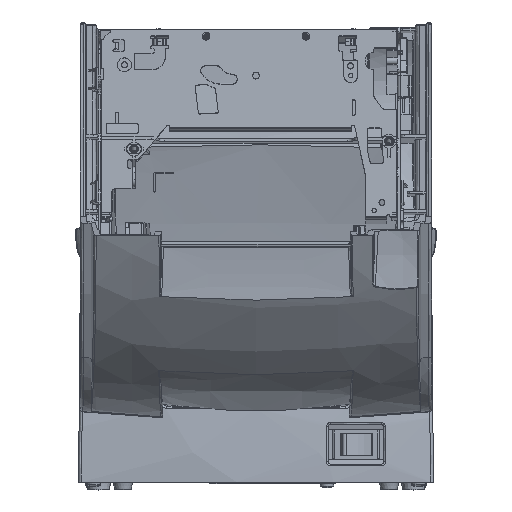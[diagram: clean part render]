
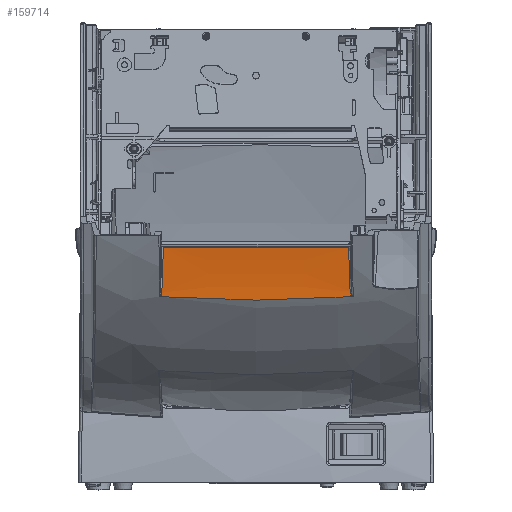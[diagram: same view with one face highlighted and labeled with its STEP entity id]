
A CAD part, top view. The second image highlights one B-rep face of the part: STEP entity #159714.
In plain terms, the highlighted face is a extrusion surface.
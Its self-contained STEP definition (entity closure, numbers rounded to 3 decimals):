
#141795=CARTESIAN_POINT('',(-42.446,-1.787,
180.438));
#141796=CARTESIAN_POINT('',(-42.419,-1.073,
180.469));
#141797=CARTESIAN_POINT('',(-42.36,0.452,
180.549));
#141798=CARTESIAN_POINT('',(-42.263,3.07,
180.735));
#141799=CARTESIAN_POINT('',(-42.161,5.88,
180.989));
#141800=CARTESIAN_POINT('',(-42.074,8.358,
181.251));
#141801=CARTESIAN_POINT('',(-41.999,10.574,
181.511));
#141802=CARTESIAN_POINT('',(-41.933,12.562,
181.764));
#141803=CARTESIAN_POINT('',(-41.875,14.358,
182.006));
#141804=CARTESIAN_POINT('',(-41.825,15.987,
182.237));
#141805=CARTESIAN_POINT('',(-41.78,17.471,
182.455));
#141806=CARTESIAN_POINT('',(-41.753,18.378,
182.593));
#141807=CARTESIAN_POINT('',(-41.741,18.81,
182.66));
#141838=CARTESIAN_POINT('',(43.36,-3.556,
180.377));
#141839=CARTESIAN_POINT('',(37.855,-3.951,
180.366));
#141840=CARTESIAN_POINT('',(27.303,-4.545,
180.355));
#141841=CARTESIAN_POINT('',(13.912,-5.001,
180.35));
#141842=CARTESIAN_POINT('',(-0.194,-5.174,
180.348));
#141843=CARTESIAN_POINT('',(-14.171,-4.993,
180.35));
#141844=CARTESIAN_POINT('',(-27.366,-4.541,
180.355));
#141845=CARTESIAN_POINT('',(-37.728,-3.958,
180.366));
#141846=CARTESIAN_POINT('',(-43.125,-3.573,
180.376));
#141848=DIRECTION('',(1.,0.,0.));
#141849=VECTOR('',#141848,83.482);
#141850=CARTESIAN_POINT('',(-41.741,18.81,
182.66));
#141851=LINE('',#141850,#141849);
#141905=CARTESIAN_POINT('',(42.424,-1.262,
180.462));
#141906=CARTESIAN_POINT('',(42.396,-0.529,
180.497));
#141907=CARTESIAN_POINT('',(42.337,1.016,
180.585));
#141908=CARTESIAN_POINT('',(42.238,3.695,
180.788));
#141909=CARTESIAN_POINT('',(42.142,6.366,
181.038));
#141910=CARTESIAN_POINT('',(42.06,8.75,
181.296));
#141911=CARTESIAN_POINT('',(41.988,10.869,
181.548));
#141912=CARTESIAN_POINT('',(41.926,12.779,
181.793));
#141913=CARTESIAN_POINT('',(41.87,14.509,
182.027));
#141914=CARTESIAN_POINT('',(41.822,16.081,
182.251));
#141915=CARTESIAN_POINT('',(41.779,17.514,
182.462));
#141916=CARTESIAN_POINT('',(41.753,18.391,
182.596));
#141917=CARTESIAN_POINT('',(41.741,18.81,
182.66));
#141934=CARTESIAN_POINT('',(43.36,-3.556,
180.377));
#141936=CARTESIAN_POINT('',(43.36,-3.556,
180.377));
#141937=CARTESIAN_POINT('',(43.341,-3.545,
180.377));
#141938=CARTESIAN_POINT('',(43.303,-3.52,
180.378));
#141939=CARTESIAN_POINT('',(43.244,-3.477,
180.379));
#141940=CARTESIAN_POINT('',(43.184,-3.426,
180.38));
#141941=CARTESIAN_POINT('',(43.124,-3.367,
180.382));
#141942=CARTESIAN_POINT('',(43.063,-3.3,
180.384));
#141943=CARTESIAN_POINT('',(43.001,-3.223,
180.386));
#141944=CARTESIAN_POINT('',(42.94,-3.137,
180.389));
#141945=CARTESIAN_POINT('',(42.878,-3.039,
180.392));
#141946=CARTESIAN_POINT('',(42.816,-2.928,
180.395));
#141947=CARTESIAN_POINT('',(42.754,-2.801,
180.399));
#141948=CARTESIAN_POINT('',(42.693,-2.658,
180.404));
#141949=CARTESIAN_POINT('',(42.636,-2.501,
180.41));
#141950=CARTESIAN_POINT('',(42.583,-2.328,
180.416));
#141951=CARTESIAN_POINT('',(42.535,-2.14,
180.424));
#141952=CARTESIAN_POINT('',(42.494,-1.938,
180.432));
#141953=CARTESIAN_POINT('',(42.461,-1.723,
180.441));
#141954=CARTESIAN_POINT('',(42.436,-1.498,
180.451));
#141955=CARTESIAN_POINT('',(42.427,-1.341,
180.459));
#141956=CARTESIAN_POINT('',(42.424,-1.262,
180.462));
#142859=CARTESIAN_POINT('',(-43.125,-3.573,
180.376));
#142893=CARTESIAN_POINT('',(-43.125,-3.573,
180.376));
#142894=CARTESIAN_POINT('',(-43.109,-3.562,
180.377));
#142895=CARTESIAN_POINT('',(-43.078,-3.538,
180.377));
#142896=CARTESIAN_POINT('',(-43.032,-3.498,
180.378));
#142897=CARTESIAN_POINT('',(-42.985,-3.452,
180.38));
#142898=CARTESIAN_POINT('',(-42.939,-3.399,
180.381));
#142899=CARTESIAN_POINT('',(-42.892,-3.34,
180.383));
#142900=CARTESIAN_POINT('',(-42.846,-3.274,
180.385));
#142901=CARTESIAN_POINT('',(-42.8,-3.2,
180.387));
#142902=CARTESIAN_POINT('',(-42.754,-3.116,
180.389));
#142903=CARTESIAN_POINT('',(-42.708,-3.023,
180.392));
#142904=CARTESIAN_POINT('',(-42.663,-2.916,
180.396));
#142905=CARTESIAN_POINT('',(-42.619,-2.795,
180.4));
#142906=CARTESIAN_POINT('',(-42.576,-2.658,
180.404));
#142907=CARTESIAN_POINT('',(-42.538,-2.507,
180.41));
#142908=CARTESIAN_POINT('',(-42.504,-2.343,
180.416));
#142909=CARTESIAN_POINT('',(-42.477,-2.168,
180.423));
#142910=CARTESIAN_POINT('',(-42.457,-1.984,
180.43));
#142911=CARTESIAN_POINT('',(-42.449,-1.853,
180.436));
#142912=CARTESIAN_POINT('',(-42.446,-1.787,
180.438));
#143480=VERTEX_POINT('',#142859);
#143483=VERTEX_POINT('',#141934);
#143526=CARTESIAN_POINT('',(-41.741,18.81,
182.66));
#143527=CARTESIAN_POINT('',(41.741,18.81,
182.66));
#143528=VERTEX_POINT('',#143526);
#143529=VERTEX_POINT('',#143527);
#143786=VERTEX_POINT('',#141795);
#143791=VERTEX_POINT('',#141905);
#159690=CARTESIAN_POINT('',(74.3,-5.354,180.347));
#159691=CARTESIAN_POINT('',(74.3,-3.314,180.36));
#159692=CARTESIAN_POINT('',(74.3,0.76,180.53));
#159693=CARTESIAN_POINT('',(74.3,6.862,181.062));
#159694=CARTESIAN_POINT('',(74.3,12.957,181.793));
#159695=CARTESIAN_POINT('',(74.3,17.018,182.382));
#159696=CARTESIAN_POINT('',(74.3,19.047,182.697));
#159698=DIRECTION('',(1.,0.,0.));
#159699=VECTOR('',#159698,1.);
#159700=SURFACE_OF_LINEAR_EXTRUSION('',#159697,#159699);
#159702=ORIENTED_EDGE('',*,*,#159701,.T.);
#159704=ORIENTED_EDGE('',*,*,#159703,.F.);
#159706=ORIENTED_EDGE('',*,*,#159705,.F.);
#159708=ORIENTED_EDGE('',*,*,#159707,.T.);
#159710=ORIENTED_EDGE('',*,*,#159709,.T.);
#159711=ORIENTED_EDGE('',*,*,#159680,.T.);
#159712=EDGE_LOOP('',(#159702,#159704,#159706,#159708,#159710,#159711));
#159713=FACE_OUTER_BOUND('',#159712,.F.);
#141808=B_SPLINE_CURVE_WITH_KNOTS('',3,(#141795,#141796,#141797,#141798,#141799,
#141800,#141801,#141802,#141803,#141804,#141805,#141806,#141807),.UNSPECIFIED.,
.F.,.F.,(4,1,1,1,1,1,1,1,1,1,4),(0.,0.1,0.2,0.3,0.4,0.5,0.6,0.7,
0.8,0.9,1.),.UNSPECIFIED.);
#141847=B_SPLINE_CURVE_WITH_KNOTS('',3,(#141838,#141839,#141840,#141841,#141842,
#141843,#141844,#141845,#141846),.UNSPECIFIED.,.F.,.F.,(4,1,1,1,1,1,4),(0.,
0.167,0.333,0.5,0.667,0.833,
1.),.UNSPECIFIED.);
#141918=B_SPLINE_CURVE_WITH_KNOTS('',3,(#141905,#141906,#141907,#141908,#141909,
#141910,#141911,#141912,#141913,#141914,#141915,#141916,#141917),.UNSPECIFIED.,
.F.,.F.,(4,1,1,1,1,1,1,1,1,1,4),(0.,0.1,0.2,0.3,0.4,0.5,0.6,0.7,
0.8,0.9,1.),.UNSPECIFIED.);
#141957=B_SPLINE_CURVE_WITH_KNOTS('',3,(#141936,#141937,#141938,#141939,#141940,
#141941,#141942,#141943,#141944,#141945,#141946,#141947,#141948,#141949,#141950,
#141951,#141952,#141953,#141954,#141955,#141956),.UNSPECIFIED.,.F.,.F.,(4,1,1,1,
1,1,1,1,1,1,1,1,1,1,1,1,1,1,4),(0.,0.056,0.111,
0.167,0.222,0.278,0.333,
0.389,0.444,0.5,0.556,0.611,
0.667,0.722,0.778,0.833,
0.889,0.944,1.),.UNSPECIFIED.);
#142913=B_SPLINE_CURVE_WITH_KNOTS('',3,(#142893,#142894,#142895,#142896,#142897,
#142898,#142899,#142900,#142901,#142902,#142903,#142904,#142905,#142906,#142907,
#142908,#142909,#142910,#142911,#142912),.UNSPECIFIED.,.F.,.F.,(4,1,1,1,1,1,1,1,
1,1,1,1,1,1,1,1,1,4),(0.,0.059,0.118,
0.176,0.235,0.294,0.353,
0.412,0.471,0.529,0.588,
0.647,0.706,0.765,0.824,
0.882,0.941,1.),.UNSPECIFIED.);
#159680=EDGE_CURVE('',#143786,#143528,#141808,.T.);
#159697=B_SPLINE_CURVE_WITH_KNOTS('',3,(#159690,#159691,#159692,#159693,#159694,
#159695,#159696),.UNSPECIFIED.,.F.,.F.,(4,1,1,1,4),(0.,0.25,0.5,0.75,
1.),.UNSPECIFIED.);
#159701=EDGE_CURVE('',#143528,#143529,#141851,.T.);
#159703=EDGE_CURVE('',#143791,#143529,#141918,.T.);
#159705=EDGE_CURVE('',#143483,#143791,#141957,.T.);
#159707=EDGE_CURVE('',#143483,#143480,#141847,.T.);
#159709=EDGE_CURVE('',#143480,#143786,#142913,.T.);
#159714=ADVANCED_FACE('',(#159713),#159700,.F.);
